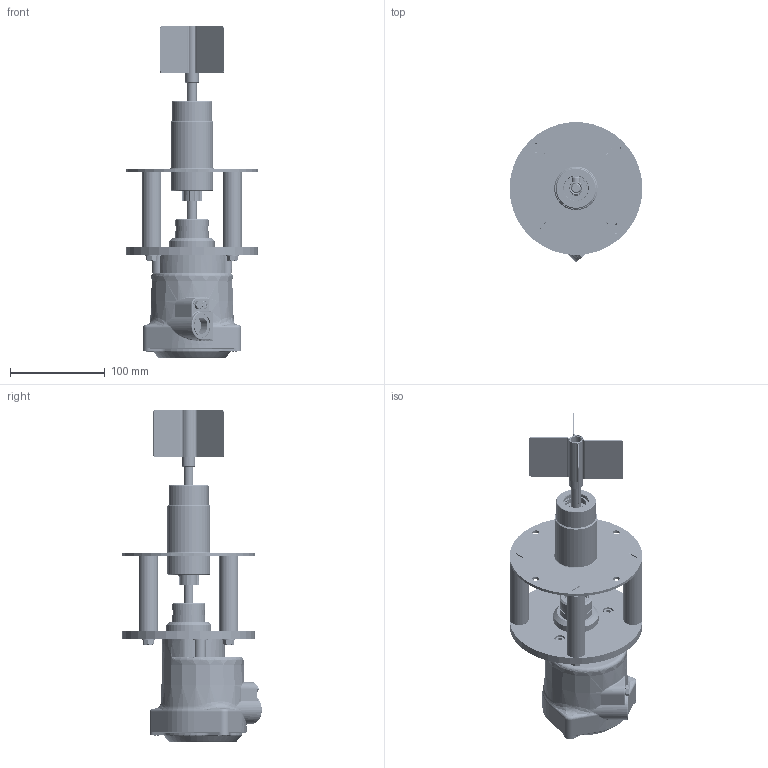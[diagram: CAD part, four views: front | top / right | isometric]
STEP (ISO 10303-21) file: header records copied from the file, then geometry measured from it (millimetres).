
FILE_DESCRIPTION(/* description */ ('PFG57ATFV L.150 STD AC3INOX4'),/* implementation_level */ '2;1');
FILE_NAME(/* name */ '0800_0050_02-01.stp',/* time_stamp */ '2026-07-02T10:04:39+02:00',/* author */ ('sabrina.colli'),/* organization */ (''),/* preprocessor_version */ 'ST-DEVELOPER v20',/* originating_system */ 'Autodesk Inventor 2024',/* authorisation */ '');
FILE_SCHEMA (('AUTOMOTIVE_DESIGN { 1 0 10303 214 3 1 1 }'));
Products named in the file (79): 0800_0050_02; SG02_0122_07; 0100_0325_00; 0105_0007_00; 0107_0001_00; 0115_0043_00; SG05_0012_00; 0115_0011_00; 0404_0004_00; 0404_0004_00_1; 0404_0026_02; 0404_0056_02; SG07_0077_02; 0401_0074_00; 0101_0007_00; 0104_0002_00; 0104_0001_00; 0111_0003_00; 0113_0008_00; 0115_0009_00; 0213_0006_00; SG01_0108_00; 0413_0005_02; 0413_0006_02; 0115_0051_00; 0415_0018_00; SG08_0004_01; 0402_0017_00; 0111_0019_00; 0303_0028_00; 0303_0015_00; SG10_0004_00; 0110_0014_00; 0115_0002_00; 0115_0004_00; 0410_0067_00; SG14_0006_01; SG06_0006_01; 0211_0004_00; 0410_0015_00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
Assembly tree (111 placements, depth 5):
  0800_0050_02
    SG02_0122_07
      0100_0325_00
      0105_0007_00
      0107_0001_00
      0115_0043_00  x2
    SG05_0012_00
      0115_0011_00
      0404_0004_00
        0404_0004_00_1
        0404_0026_02
        0404_0056_02  x2
    SG07_0077_02
      0401_0074_00
      0101_0007_00
      0104_0002_00
      0104_0001_00
      0111_0003_00
      0113_0008_00
      0115_0009_00
      0213_0006_00
      SG01_0108_00
        0413_0005_02
        0413_0006_02
        0115_0051_00
        0415_0018_00
    SG08_0004_01
      0402_0017_00
      0111_0019_00
      0303_0028_00
      0303_0015_00
    SG10_0004_00
      0110_0014_00
      0115_0002_00  x2
      0115_0004_00  x3
      0410_0067_00
    SG14_0006_01
      SG06_0006_01
        0211_0004_00
        0410_0015_00
        0115_0032_00  x2
      SG09_0034_01
        0223_0063_02
          0203_0044_02
          0204_0005_02  x2
          0204_0051_02
          0204_0062_02
          0204_0065_02
          0206_0010_02  x4
          0206_0018_02
          0207_0019_02
          0210_0001_02  x2
          0212_0002_00  x4
          0217_0029_02  x2
          0217_0034_02  x2
          0217_0063_02
          0217_0064_02
          0220_0004_02
          0220_0011_02
          0225_0004_02
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Bounding box: 140 x 147.07 x 350 mm (x, y, z)
Volume: 641401.2 mm3; surface area: 362338.4 mm2
Topology: 131 solids, 134 shells, 9061 faces, 23914 edges, 15275 vertices
Faces by surface type: plane 4800, cylinder 2410, bspline 596, cone 534, torus 517, sphere 204
Full cylindrical faces by diameter (mm): 0.163 x1, 0.242 x1, 0.487 x1, 0.5 x1, 0.75 x3, 0.8 x35, 0.813 x2, 0.919 x1, 0.938 x1, 1 x6, 1.001 x1, 1.3 x4, 1.4 x6, 1.5 x31, 1.6 x4, 1.7 x3, 2 x16, 2.3 x4, 2.319 x3, 2.4 x2, 2.459 x1, 2.5 x8, 2.6 x2, 2.7 x3, 2.729 x3, 2.989 x1, 2.993 x1, 3 x14, 3.2 x5, 3.5 x5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
Entity records: 279848 total; most frequent: CARTESIAN_POINT 76830, ORIENTED_EDGE 41592, DIRECTION 39594, EDGE_CURVE 20798, AXIS2_PLACEMENT_3D 13460, VERTEX_POINT 13457, LINE 12674, VECTOR 12674
